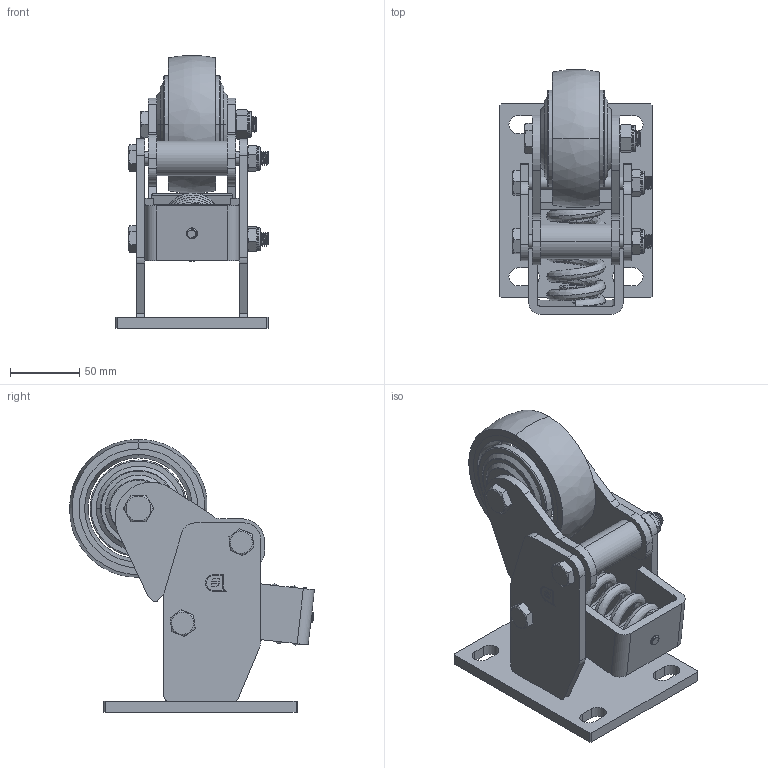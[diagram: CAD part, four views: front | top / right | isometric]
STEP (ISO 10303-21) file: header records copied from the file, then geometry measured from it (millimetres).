
FILE_DESCRIPTION((''),'2;1');
FILE_NAME('PRT0003','2025-09-14T11:32:07',('Administrator'),(''),'CREO PARAMETRIC BY PTC INC, 2024325','CREO PARAMETRIC BY PTC INC, 2024325','');
FILE_SCHEMA(('CONFIG_CONTROL_DESIGN','GEOMETRIC_VALIDATION_PROPERTIES_MIM'));
Length unit declared in the file: millimetre
Products named in the file (1): PRT0003
Bounding box: 110 x 176.82 x 197.28 mm (x, y, z)
Surface area: 180529.4 mm2 (no closed solid volume)
Topology: 0 solids, 32 shells, 332 faces, 992 edges, 694 vertices
Faces by surface type: plane 131, cylinder 114, cone 42, bspline 23, torus 22
Entity records: 20053 total; most frequent: CARTESIAN_POINT 9177, ORIENTED_EDGE 1658, DIRECTION 1644, EDGE_CURVE 992, VERTEX_POINT 694, AXIS2_PLACEMENT_3D 607, VECTOR 430, LINE 430
